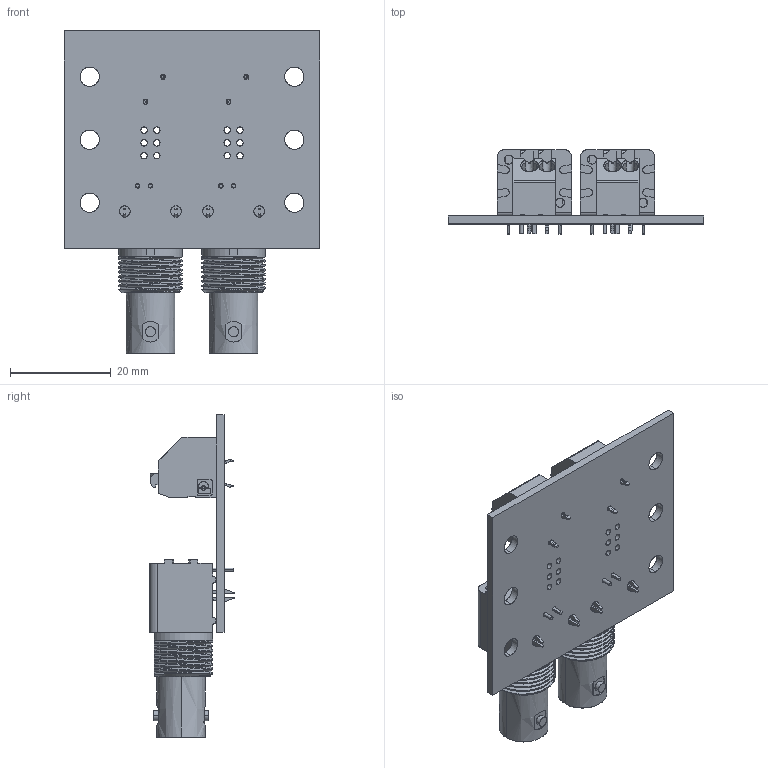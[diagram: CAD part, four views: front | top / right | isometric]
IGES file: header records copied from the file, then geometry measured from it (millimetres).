
Start section: SolidWorks IGES file using analytic representation for surfaces
Global section: file name: W:\end-user\products\brk\brkgbam\brkgbam2\3dmodel\2022-04-22_[v2]_rev_a\render\brkgbam2v2-r50-n_rev_a.igs; native system: SolidWorks 2018; preprocessor: SolidWorks 2018; author: leviroy; date: 220422.125834; units: inch
Bounding box: 50.8 x 16.8 x 63.94 mm (x, y, z)
Surface area: 11281.8 mm2 (no closed solid volume)
Topology: 0 solids, 0 shells, 2553 faces, 24822 edges, 24822 vertices
Faces by surface type: bspline 2108, revolution 445
